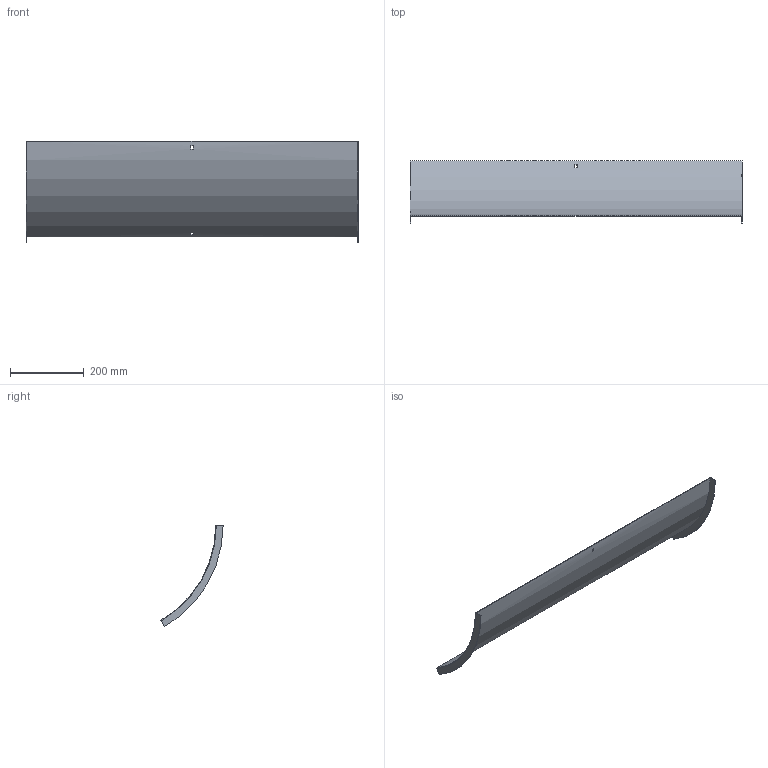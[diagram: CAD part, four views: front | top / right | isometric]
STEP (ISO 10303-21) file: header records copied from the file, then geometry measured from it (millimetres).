
FILE_DESCRIPTION (( 'STEP AP214' ), '1' );
FILE_NAME ('B2X40N3R900X.step', '2025-03-20T09:44:56', ( '' ), ( '' ), 'SwSTEP 2.0', 'SolidWorks 2023', '' );
FILE_SCHEMA (( 'AUTOMOTIVE_DESIGN' ));
Length unit declared in the file: millimetre
Products named in the file (1): B2X40N3R900X
Bounding box: 903 x 169.25 x 275.83 mm (x, y, z)
Volume: 442262.6 mm3; surface area: 593594.8 mm2
Topology: 1 solids, 1 shells, 18 faces, 48 edges, 32 vertices
Faces by surface type: plane 14, cylinder 4
Entity records: 599 total; most frequent: DIRECTION 102, CARTESIAN_POINT 99, ORIENTED_EDGE 96, EDGE_CURVE 48, AXIS2_PLACEMENT_3D 35, VECTOR 32, VERTEX_POINT 32, LINE 32
